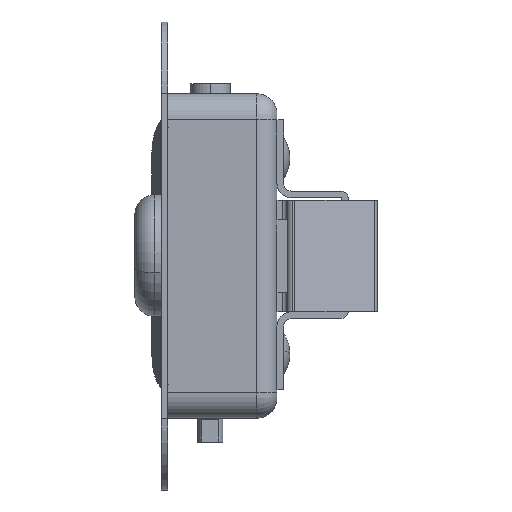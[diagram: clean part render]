
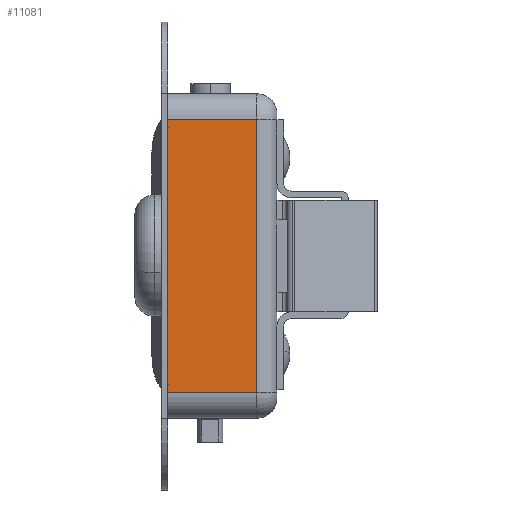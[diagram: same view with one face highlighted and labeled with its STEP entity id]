
A CAD part, left-side view. The second image highlights one B-rep face of the part: STEP entity #11081.
In plain terms, the highlighted planar face has unit normal (-1, 0, 0).
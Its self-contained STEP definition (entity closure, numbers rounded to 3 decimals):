
#111 = LINE ( 'NONE', #13371, #3292 ) ;
#1304 = CARTESIAN_POINT ( 'NONE',  ( 13.2, 0., -19.1 ) ) ;
#1759 = EDGE_CURVE ( 'NONE', #10034, #4504, #3188, .T. ) ;
#1931 = DIRECTION ( 'NONE',  ( 0., 1., 0. ) ) ;
#2880 = CARTESIAN_POINT ( 'NONE',  ( 13.2, -17.5, -72.9 ) ) ;
#3166 = VERTEX_POINT ( 'NONE', #5798 ) ;
#3188 = LINE ( 'NONE', #4347, #9965 ) ;
#3292 = VECTOR ( 'NONE', #9274, 1000. ) ;
#3345 = DIRECTION ( 'NONE',  ( 1., 0., 0. ) ) ;
#3463 = EDGE_LOOP ( 'NONE', ( #10650, #14696, #3790, #14109 ) ) ;
#3790 = ORIENTED_EDGE ( 'NONE', *, *, #1759, .T. ) ;
#4347 = CARTESIAN_POINT ( 'NONE',  ( 13.2, -21.5, -19.1 ) ) ;
#4504 = VERTEX_POINT ( 'NONE', #1304 ) ;
#5140 = CARTESIAN_POINT ( 'NONE',  ( 13.2, 0., -19.1 ) ) ;
#5798 = CARTESIAN_POINT ( 'NONE',  ( 13.2, 0., -72.9 ) ) ;
#6930 = FACE_OUTER_BOUND ( 'NONE', #3463, .T. ) ;
#7827 = EDGE_CURVE ( 'NONE', #12827, #3166, #13125, .T. ) ;
#7972 = AXIS2_PLACEMENT_3D ( 'NONE', #10092, #3345, #12839 ) ;
#8890 = CARTESIAN_POINT ( 'NONE',  ( 13.2, -17.5, -19.1 ) ) ;
#9274 = DIRECTION ( 'NONE',  ( 0., 0., 1. ) ) ;
#9965 = VECTOR ( 'NONE', #13850, 1000. ) ;
#10034 = VERTEX_POINT ( 'NONE', #8890 ) ;
#10092 = CARTESIAN_POINT ( 'NONE',  ( 13.2, -21.5, -19.1 ) ) ;
#10220 = EDGE_CURVE ( 'NONE', #4504, #3166, #15189, .T. ) ;
#10650 = ORIENTED_EDGE ( 'NONE', *, *, #7827, .F. ) ;
#11081 = ADVANCED_FACE ( 'NONE', ( #6930 ), #11458, .F. ) ;
#11458 = PLANE ( 'NONE',  #7972 ) ;
#12559 = EDGE_CURVE ( 'NONE', #12827, #10034, #111, .T. ) ;
#12827 = VERTEX_POINT ( 'NONE', #2880 ) ;
#12839 = DIRECTION ( 'NONE',  ( 0., 0., -1. ) ) ;
#13125 = LINE ( 'NONE', #14260, #15882 ) ;
#13276 = DIRECTION ( 'NONE',  ( 0., 0., -1. ) ) ;
#13371 = CARTESIAN_POINT ( 'NONE',  ( 13.2, -17.5, -19.1 ) ) ;
#13850 = DIRECTION ( 'NONE',  ( 0., 1., 0. ) ) ;
#14109 = ORIENTED_EDGE ( 'NONE', *, *, #10220, .T. ) ;
#14260 = CARTESIAN_POINT ( 'NONE',  ( 13.2, -21.5, -72.9 ) ) ;
#14696 = ORIENTED_EDGE ( 'NONE', *, *, #12559, .T. ) ;
#15189 = LINE ( 'NONE', #5140, #15613 ) ;
#15613 = VECTOR ( 'NONE', #13276, 1000. ) ;
#15882 = VECTOR ( 'NONE', #1931, 1000. ) ;
